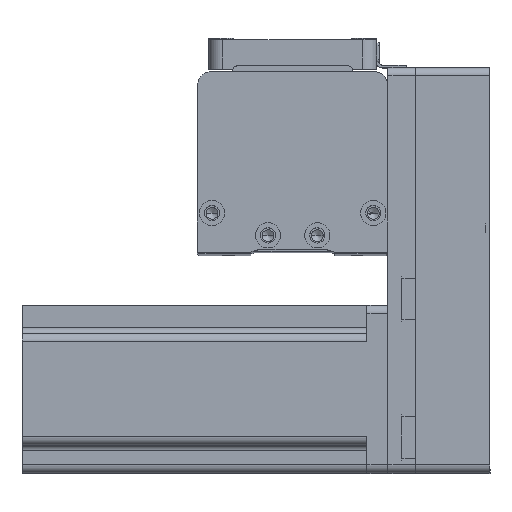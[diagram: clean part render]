
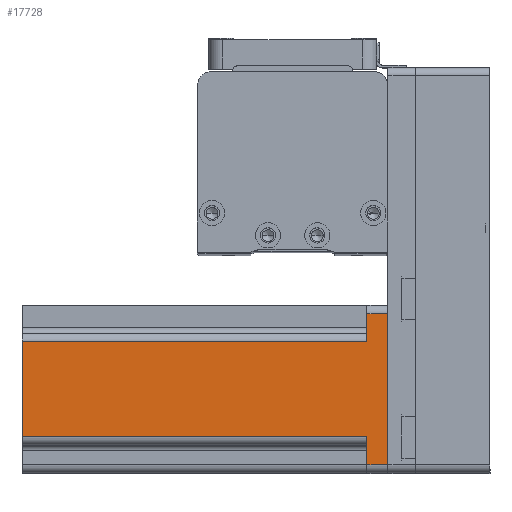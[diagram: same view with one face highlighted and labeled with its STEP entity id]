
A CAD part, top view. The second image highlights one B-rep face of the part: STEP entity #17728.
In plain terms, the highlighted planar face has unit normal (0, 0, 1) as drawn and (0, 1, 0) by its records, which use the part's own axes.
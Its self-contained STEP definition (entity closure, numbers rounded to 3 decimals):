
#188 = LINE ( 'NONE', #31584, #24528 ) ;
#529 = VECTOR ( 'NONE', #9354, 1000. ) ;
#621 = EDGE_CURVE ( 'NONE', #1171, #6549, #42764, .T. ) ;
#1171 = VERTEX_POINT ( 'NONE', #13828 ) ;
#3180 = DIRECTION ( 'NONE',  ( 0., 0., -1. ) ) ;
#3491 = CARTESIAN_POINT ( 'NONE',  ( -17., 30., 130.7 ) ) ;
#3785 = DIRECTION ( 'NONE',  ( -1., 0., 0. ) ) ;
#4406 = ORIENTED_EDGE ( 'NONE', *, *, #40641, .T. ) ;
#5722 = PLANE ( 'NONE',  #14209 ) ;
#6090 = CARTESIAN_POINT ( 'NONE',  ( 17., 30., 130.7 ) ) ;
#6279 = LINE ( 'NONE', #39137, #529 ) ;
#6549 = VERTEX_POINT ( 'NONE', #11906 ) ;
#7795 = LINE ( 'NONE', #22510, #40910 ) ;
#8356 = ORIENTED_EDGE ( 'NONE', *, *, #31934, .F. ) ;
#8763 = DIRECTION ( 'NONE',  ( -1., 0., 0. ) ) ;
#8911 = ORIENTED_EDGE ( 'NONE', *, *, #22370, .T. ) ;
#9233 = CARTESIAN_POINT ( 'NONE',  ( 27., 30., 7.5 ) ) ;
#9354 = DIRECTION ( 'NONE',  ( 1., 0., 0. ) ) ;
#9756 = LINE ( 'NONE', #9879, #35132 ) ;
#9879 = CARTESIAN_POINT ( 'NONE',  ( 27., 30., 130.7 ) ) ;
#10197 = CARTESIAN_POINT ( 'NONE',  ( 20., 30., 7.5 ) ) ;
#11906 = CARTESIAN_POINT ( 'NONE',  ( -27., 30., 7.5 ) ) ;
#11944 = CARTESIAN_POINT ( 'NONE',  ( 30., 30., 130.7 ) ) ;
#12108 = LINE ( 'NONE', #38907, #37487 ) ;
#12551 = CARTESIAN_POINT ( 'NONE',  ( 30., 30., 130.7 ) ) ;
#13128 = CARTESIAN_POINT ( 'NONE',  ( -17., 30., 7.5 ) ) ;
#13828 = CARTESIAN_POINT ( 'NONE',  ( -27., 30., 0. ) ) ;
#13852 = LINE ( 'NONE', #11944, #39179 ) ;
#14209 = AXIS2_PLACEMENT_3D ( 'NONE', #12551, #35683, #15880 ) ;
#14402 = VERTEX_POINT ( 'NONE', #3491 ) ;
#15482 = VECTOR ( 'NONE', #3785, 1000. ) ;
#15791 = DIRECTION ( 'NONE',  ( 0., 0., -1. ) ) ;
#15880 = DIRECTION ( 'NONE',  ( 1., 0., 0. ) ) ;
#16292 = VERTEX_POINT ( 'NONE', #13128 ) ;
#17728 = ADVANCED_FACE ( 'NONE', ( #39574 ), #5722, .F. ) ;
#17803 = ORIENTED_EDGE ( 'NONE', *, *, #21716, .T. ) ;
#19482 = EDGE_CURVE ( 'NONE', #6549, #16292, #6279, .T. ) ;
#21716 = EDGE_CURVE ( 'NONE', #16292, #14402, #188, .T. ) ;
#22370 = EDGE_CURVE ( 'NONE', #30972, #27195, #12108, .T. ) ;
#22510 = CARTESIAN_POINT ( 'NONE',  ( 30., 30., 0. ) ) ;
#23542 = CARTESIAN_POINT ( 'NONE',  ( -27., 30., 130.7 ) ) ;
#24231 = LINE ( 'NONE', #10197, #15482 ) ;
#24528 = VECTOR ( 'NONE', #34925, 1000. ) ;
#25841 = DIRECTION ( 'NONE',  ( -1., 0., 0. ) ) ;
#26874 = DIRECTION ( 'NONE',  ( 0., 0., 1. ) ) ;
#27025 = CARTESIAN_POINT ( 'NONE',  ( 27., 30., 0. ) ) ;
#27133 = EDGE_LOOP ( 'NONE', ( #28143, #17803, #8356, #8911, #36739, #34684, #4406, #31083 ) ) ;
#27195 = VERTEX_POINT ( 'NONE', #31611 ) ;
#28143 = ORIENTED_EDGE ( 'NONE', *, *, #19482, .T. ) ;
#28624 = VERTEX_POINT ( 'NONE', #27025 ) ;
#29120 = EDGE_CURVE ( 'NONE', #40628, #27195, #24231, .T. ) ;
#30972 = VERTEX_POINT ( 'NONE', #6090 ) ;
#31083 = ORIENTED_EDGE ( 'NONE', *, *, #621, .T. ) ;
#31584 = CARTESIAN_POINT ( 'NONE',  ( -17., 30., 130.7 ) ) ;
#31611 = CARTESIAN_POINT ( 'NONE',  ( 17., 30., 7.5 ) ) ;
#31934 = EDGE_CURVE ( 'NONE', #30972, #14402, #13852, .T. ) ;
#33959 = VECTOR ( 'NONE', #26874, 1000. ) ;
#34684 = ORIENTED_EDGE ( 'NONE', *, *, #41352, .T. ) ;
#34925 = DIRECTION ( 'NONE',  ( 0., 0., 1. ) ) ;
#35132 = VECTOR ( 'NONE', #3180, 1000. ) ;
#35683 = DIRECTION ( 'NONE',  ( 0., -1., 0. ) ) ;
#36739 = ORIENTED_EDGE ( 'NONE', *, *, #29120, .F. ) ;
#37487 = VECTOR ( 'NONE', #15791, 1000. ) ;
#38907 = CARTESIAN_POINT ( 'NONE',  ( 17., 30., 130.7 ) ) ;
#39137 = CARTESIAN_POINT ( 'NONE',  ( -20., 30., 7.5 ) ) ;
#39179 = VECTOR ( 'NONE', #8763, 1000. ) ;
#39574 = FACE_OUTER_BOUND ( 'NONE', #27133, .T. ) ;
#40628 = VERTEX_POINT ( 'NONE', #9233 ) ;
#40641 = EDGE_CURVE ( 'NONE', #28624, #1171, #7795, .T. ) ;
#40910 = VECTOR ( 'NONE', #25841, 1000. ) ;
#41352 = EDGE_CURVE ( 'NONE', #40628, #28624, #9756, .T. ) ;
#42764 = LINE ( 'NONE', #23542, #33959 ) ;
